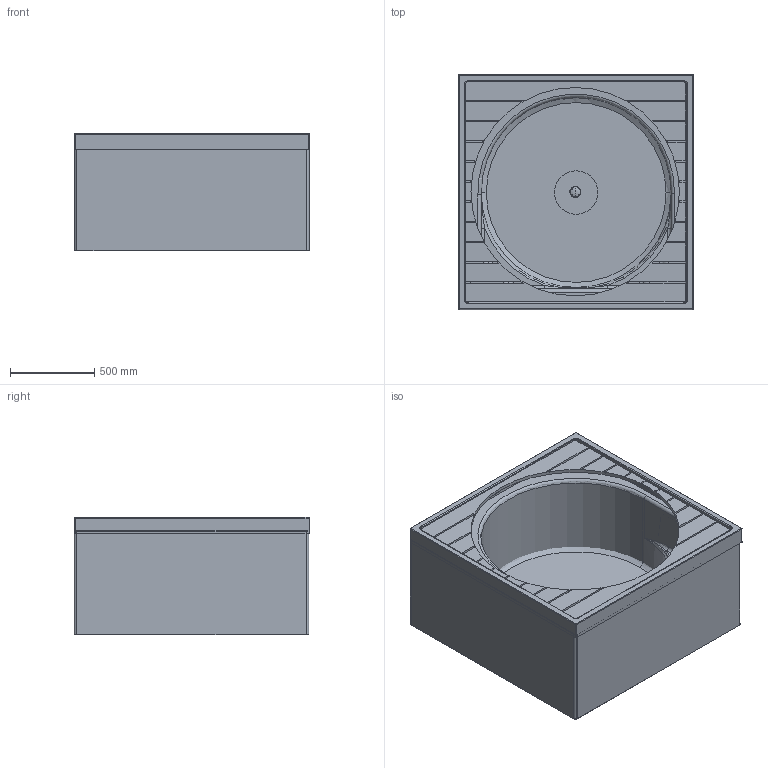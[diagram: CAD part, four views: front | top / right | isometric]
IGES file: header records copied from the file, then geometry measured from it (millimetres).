
Global section: file name: No Iges File Name specified; native system: Autodesk Inventor 2009; preprocessor: AutoDesk Inventor Iges Exporter R2009; author: Andreas; date: 20090630.103450; units: millimetre
Bounding box: 1400 x 1402.63 x 700 mm (x, y, z)
Volume: 106903857.4 mm3; surface area: 23264305.7 mm2
Topology: 8 solids, 8 shells, 379 faces, 1028 edges, 629 vertices
Faces by surface type: plane 166, cylinder 91, revolution 53, torus 32, bspline 27, cone 6, sphere 4
